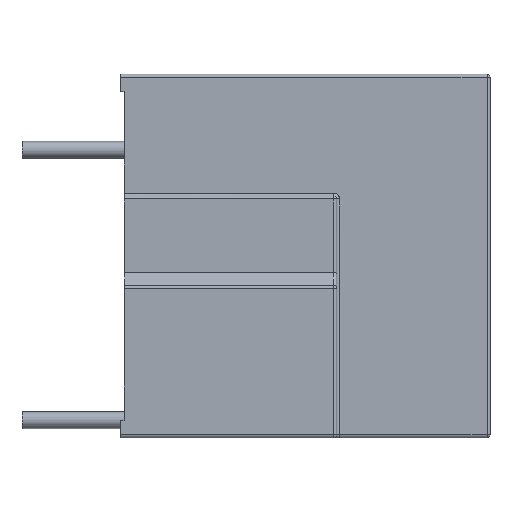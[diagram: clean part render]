
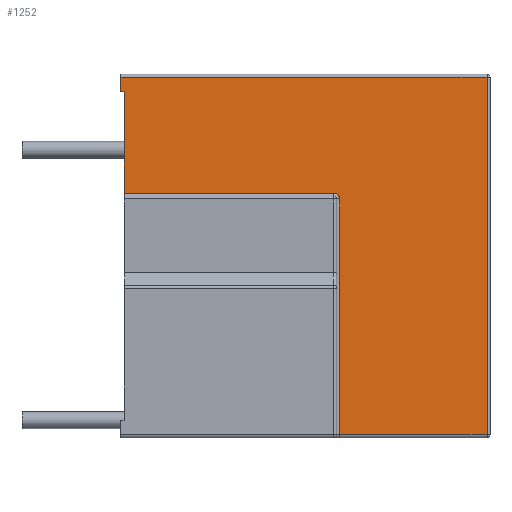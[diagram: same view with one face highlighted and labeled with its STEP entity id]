
A CAD part, left-side view. The second image highlights one B-rep face of the part: STEP entity #1252.
In plain terms, the highlighted planar face has unit normal (-1, 0, 0).
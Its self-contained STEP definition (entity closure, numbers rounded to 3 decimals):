
#140=DIRECTION('',(0.,0.,1.));
#141=VECTOR('',#140,1.5);
#142=CARTESIAN_POINT('',(-6.3,37.6,-1.8));
#143=LINE('',#142,#141);
#188=DIRECTION('',(0.,0.,1.));
#189=VECTOR('',#188,10.3);
#190=CARTESIAN_POINT('',(-6.3,37.2,-12.1));
#191=LINE('',#190,#189);
#334=DIRECTION('',(0.,1.,0.));
#335=VECTOR('',#334,21.3);
#336=CARTESIAN_POINT('',(-6.3,15.9,-12.1));
#337=LINE('',#336,#335);
#338=DIRECTION('',(0.,1.,0.));
#339=VECTOR('',#338,0.4);
#340=CARTESIAN_POINT('',(-6.3,37.2,-1.8));
#341=LINE('',#340,#339);
#342=DIRECTION('',(0.,1.,0.));
#343=VECTOR('',#342,37.3);
#344=CARTESIAN_POINT('',(-6.3,0.3,-0.3));
#345=LINE('',#344,#343);
#346=DIRECTION('',(0.,0.,1.));
#347=VECTOR('',#346,36.4);
#348=CARTESIAN_POINT('',(-6.3,0.3,-36.7));
#349=LINE('',#348,#347);
#350=DIRECTION('',(0.,1.,0.));
#351=VECTOR('',#350,15.);
#352=CARTESIAN_POINT('',(-6.3,0.3,-36.7));
#353=LINE('',#352,#351);
#354=DIRECTION('',(0.,0.,1.));
#355=VECTOR('',#354,24.);
#356=CARTESIAN_POINT('',(-6.3,15.3,-36.7));
#357=LINE('',#356,#355);
#358=CARTESIAN_POINT('',(-6.3,15.9,-12.7));
#359=DIRECTION('',(1.,0.,0.));
#360=DIRECTION('',(0.,0.,1.));
#361=AXIS2_PLACEMENT_3D('',#358,#359,#360);
#727=CARTESIAN_POINT('',(-6.3,37.6,-1.8));
#728=VERTEX_POINT('',#727);
#755=CARTESIAN_POINT('',(-6.3,37.2,-1.8));
#756=VERTEX_POINT('',#755);
#799=CARTESIAN_POINT('',(-6.3,15.9,-12.1));
#800=CARTESIAN_POINT('',(-6.3,37.2,-12.1));
#801=VERTEX_POINT('',#799);
#802=VERTEX_POINT('',#800);
#851=CARTESIAN_POINT('',(-6.3,37.6,-0.3));
#853=VERTEX_POINT('',#851);
#855=CARTESIAN_POINT('',(-6.3,0.3,-0.3));
#856=VERTEX_POINT('',#855);
#857=CARTESIAN_POINT('',(-6.3,0.3,-36.7));
#858=VERTEX_POINT('',#857);
#859=CARTESIAN_POINT('',(-6.3,15.3,-36.7));
#860=VERTEX_POINT('',#859);
#879=CARTESIAN_POINT('',(-6.3,15.3,-12.7));
#880=VERTEX_POINT('',#879);
#1229=CARTESIAN_POINT('',(-6.3,0.,-12.4));
#1230=DIRECTION('',(-1.,0.,0.));
#1231=DIRECTION('',(0.,0.,1.));
#1232=AXIS2_PLACEMENT_3D('',#1229,#1230,#1231);
#1233=PLANE('',#1232);
#1235=ORIENTED_EDGE('',*,*,#1234,.T.);
#1236=ORIENTED_EDGE('',*,*,#1084,.T.);
#1238=ORIENTED_EDGE('',*,*,#1237,.T.);
#1239=ORIENTED_EDGE('',*,*,#1050,.T.);
#1241=ORIENTED_EDGE('',*,*,#1240,.F.);
#1243=ORIENTED_EDGE('',*,*,#1242,.F.);
#1245=ORIENTED_EDGE('',*,*,#1244,.T.);
#1247=ORIENTED_EDGE('',*,*,#1246,.T.);
#1249=ORIENTED_EDGE('',*,*,#1248,.F.);
#1250=EDGE_LOOP('',(#1235,#1236,#1238,#1239,#1241,#1243,#1245,#1247,#1249));
#1251=FACE_OUTER_BOUND('',#1250,.F.);
#1252=ADVANCED_FACE('',(#1251),#1233,.T.);
#362=CIRCLE('',#361,0.6);
#1050=EDGE_CURVE('',#728,#853,#143,.T.);
#1084=EDGE_CURVE('',#802,#756,#191,.T.);
#1234=EDGE_CURVE('',#801,#802,#337,.T.);
#1237=EDGE_CURVE('',#756,#728,#341,.T.);
#1240=EDGE_CURVE('',#856,#853,#345,.T.);
#1242=EDGE_CURVE('',#858,#856,#349,.T.);
#1244=EDGE_CURVE('',#858,#860,#353,.T.);
#1246=EDGE_CURVE('',#860,#880,#357,.T.);
#1248=EDGE_CURVE('',#801,#880,#362,.T.);
